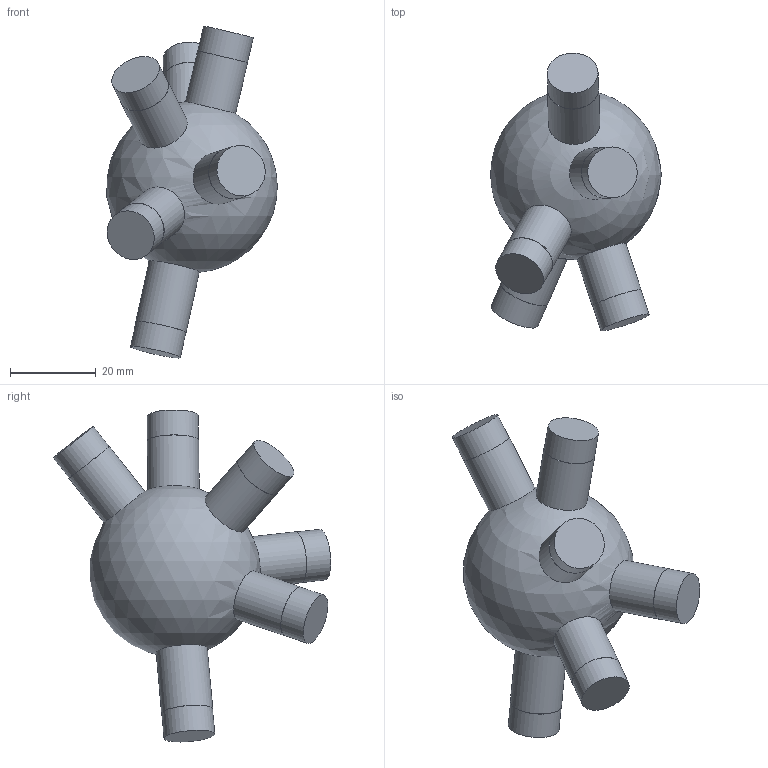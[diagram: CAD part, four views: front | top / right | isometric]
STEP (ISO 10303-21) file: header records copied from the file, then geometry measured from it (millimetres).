
FILE_DESCRIPTION(('Open CASCADE Model'),'2;1');
FILE_NAME('Open CASCADE Shape Model','2026-10-21T12:47:57',('Author'),( 'Open CASCADE'),'Open CASCADE STEP processor 7.9','Open CASCADE 7.9' ,'Unknown');
FILE_SCHEMA(('AUTOMOTIVE_DESIGN { 1 0 10303 214 1 1 1 1 }'));
Length unit declared in the file: millimetre
Products named in the file (1): Open CASCADE STEP translator 7.9 107
Bounding box: 39.86 x 64.88 x 77.6 mm (x, y, z)
Volume: 45853.5 mm3; surface area: 9241.2 mm2
Topology: 1 solids, 1 shells, 25 faces, 39 edges, 26 vertices
Faces by surface type: cylinder 12, plane 12, sphere 1
Full cylindrical faces by diameter (mm): 11.9 x6, 12 x6
Entity records: 1569 total; most frequent: CARTESIAN_POINT 657, DIRECTION 188, ORIENTED_EDGE 78, PCURVE 78, DEFINITIONAL_REPRESENTATION 78, LINE 64, VECTOR 64, AXIS2_PLACEMENT_3D 53
